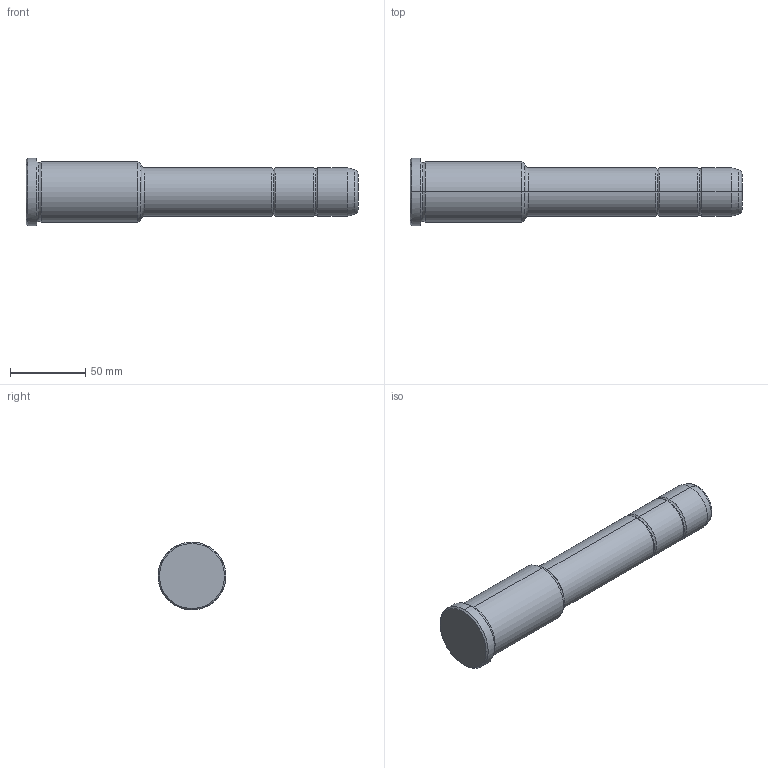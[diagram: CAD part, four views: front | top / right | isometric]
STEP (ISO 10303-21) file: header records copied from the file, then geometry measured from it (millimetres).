
FILE_DESCRIPTION(('CATIA V5 STEP Exchange'),'2;1');
FILE_NAME('C:\Users\Utente\Desktop\IO LAVORO\3D X SITO CF\X SITO\PLASTICA\351\351-32X76X220.stp','2021-09-07T13:51:57+00:00',('none'),('none'),'CATIA Version 5 Release 20 GA (IN-10)','CATIA V5 STEP AP203','none');
FILE_SCHEMA(('CONFIG_CONTROL_DESIGN'));
Length unit declared in the file: millimetre
Products named in the file (1): 351-32X76X220
Bounding box: 220 x 45 x 45 mm (x, y, z)
Volume: 212447.4 mm3; surface area: 26888.4 mm2
Topology: 1 solids, 1 shells, 36 faces, 102 edges, 70 vertices
Faces by surface type: torus 16, cylinder 10, cone 6, plane 4
Entity records: 1292 total; most frequent: CARTESIAN_POINT 321, ORIENTED_EDGE 204, DIRECTION 166, AXIS2_PLACEMENT_3D 115, EDGE_CURVE 102, CIRCLE 78, VERTEX_POINT 70, EDGE_LOOP 38
